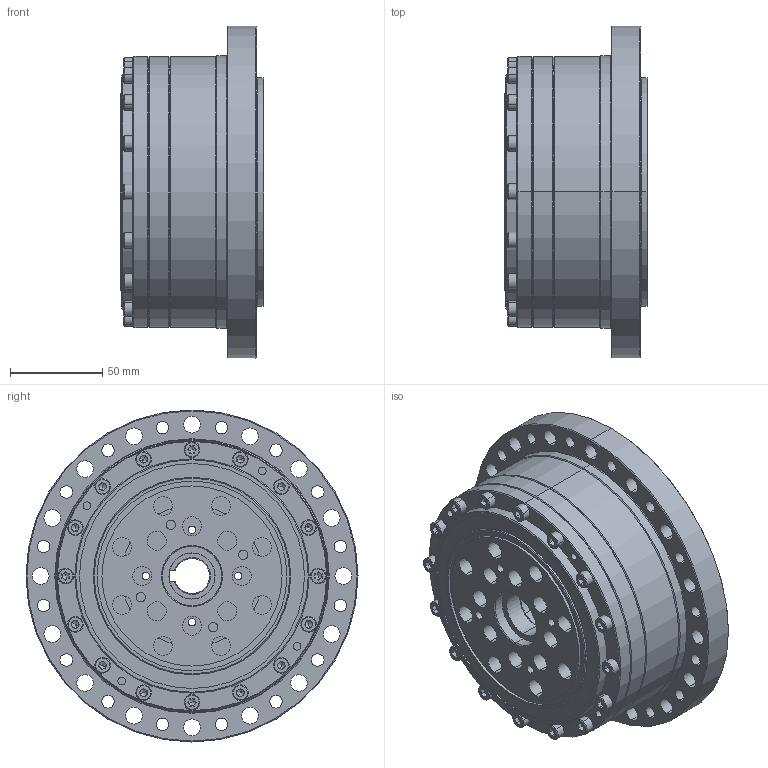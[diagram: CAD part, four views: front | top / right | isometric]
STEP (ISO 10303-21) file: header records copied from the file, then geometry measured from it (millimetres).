
FILE_DESCRIPTION (( 'STEP AP203' ), '1' );
FILE_NAME ('BCS-45-XXX-U-¢ñ.STEP', '2019-01-15T03:26:48', ( 'User' ), ( 'China' ), 'SwSTEP 2.0', 'SolidWorks 2015', '' );
FILE_SCHEMA (( 'CONFIG_CONTROL_DESIGN' ));
Length unit declared in the file: millimetre
Products named in the file (1): BCS-45-XXX-U-ｉ
Bounding box: 78 x 180 x 180 mm (x, y, z)
Surface area: 183744.6 mm2 (no closed solid volume)
Topology: 0 solids, 28 shells, 532 faces, 1775 edges, 1129 vertices
Faces by surface type: cylinder 205, plane 162, cone 107, sphere 40, torus 14, bspline 4
Entity records: 21751 total; most frequent: CARTESIAN_POINT 6613, DIRECTION 3315, ORIENTED_EDGE 2870, EDGE_CURVE 1643, AXIS2_PLACEMENT_3D 1310, VERTEX_POINT 1069, CIRCLE 781, EDGE_LOOP 714
